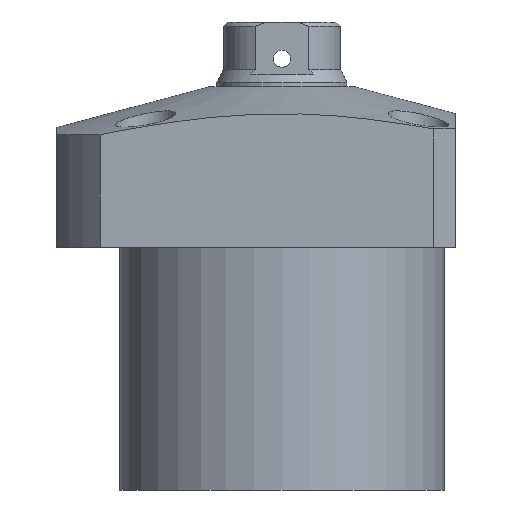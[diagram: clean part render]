
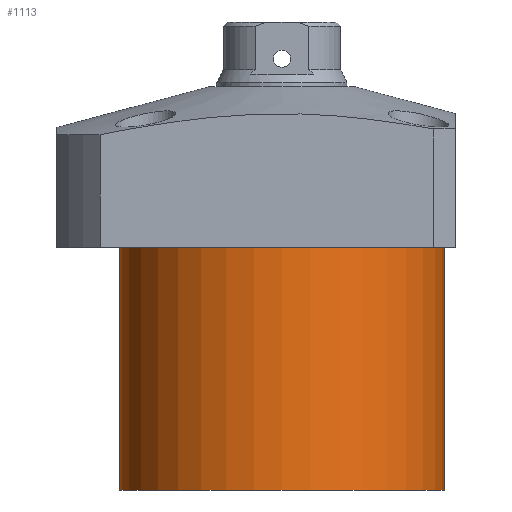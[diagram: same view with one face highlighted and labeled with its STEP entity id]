
A CAD part, front view. The second image highlights one B-rep face of the part: STEP entity #1113.
In plain terms, the highlighted cylindrical face has radius 37.5 mm (diameter 75 mm), a partial arc.
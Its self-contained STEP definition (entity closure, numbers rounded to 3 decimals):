
#221 = CIRCLE ( 'NONE', #868, 37.5 ) ;
#335 = DIRECTION ( 'NONE',  ( 0., 0., -1. ) ) ;
#401 = VERTEX_POINT ( 'NONE', #1764 ) ;
#490 = AXIS2_PLACEMENT_3D ( 'NONE', #1401, #335, #2507 ) ;
#494 = VERTEX_POINT ( 'NONE', #709 ) ;
#535 = DIRECTION ( 'NONE',  ( 1., 0., 0. ) ) ;
#671 = DIRECTION ( 'NONE',  ( 0., 0., 1. ) ) ;
#709 = CARTESIAN_POINT ( 'NONE',  ( 37.5, 0., -18.5 ) ) ;
#743 = DIRECTION ( 'NONE',  ( 0., 0., -1. ) ) ;
#831 = CARTESIAN_POINT ( 'NONE',  ( 37.5, 0., -74.5 ) ) ;
#866 = CARTESIAN_POINT ( 'NONE',  ( 37.5, 0., -74.5 ) ) ;
#868 = AXIS2_PLACEMENT_3D ( 'NONE', #1370, #743, #535 ) ;
#903 = CARTESIAN_POINT ( 'NONE',  ( -37.5, 0., -74.5 ) ) ;
#1007 = DIRECTION ( 'NONE',  ( 1., 0., 0. ) ) ;
#1029 = EDGE_CURVE ( 'NONE', #2531, #1813, #1302, .T. ) ;
#1035 = DIRECTION ( 'NONE',  ( 0., 0., 1. ) ) ;
#1113 = ADVANCED_FACE ( 'NONE', ( #2775 ), #2161, .T. ) ;
#1140 = CARTESIAN_POINT ( 'NONE',  ( -37.5, 0., -74.5 ) ) ;
#1295 = LINE ( 'NONE', #831, #2003 ) ;
#1302 = CIRCLE ( 'NONE', #490, 37.5 ) ;
#1366 = LINE ( 'NONE', #1140, #2734 ) ;
#1370 = CARTESIAN_POINT ( 'NONE',  ( 0., 0., -18.5 ) ) ;
#1387 = EDGE_LOOP ( 'NONE', ( #2443, #1751, #2132, #2579 ) ) ;
#1401 = CARTESIAN_POINT ( 'NONE',  ( 0., 0., -74.5 ) ) ;
#1751 = ORIENTED_EDGE ( 'NONE', *, *, #1029, .F. ) ;
#1763 = EDGE_CURVE ( 'NONE', #2531, #494, #1295, .T. ) ;
#1764 = CARTESIAN_POINT ( 'NONE',  ( -37.5, 0., -18.5 ) ) ;
#1813 = VERTEX_POINT ( 'NONE', #903 ) ;
#1820 = AXIS2_PLACEMENT_3D ( 'NONE', #2351, #2533, #1007 ) ;
#2003 = VECTOR ( 'NONE', #1035, 1000. ) ;
#2132 = ORIENTED_EDGE ( 'NONE', *, *, #1763, .T. ) ;
#2161 = CYLINDRICAL_SURFACE ( 'NONE', #1820, 37.5 ) ;
#2319 = EDGE_CURVE ( 'NONE', #1813, #401, #1366, .T. ) ;
#2351 = CARTESIAN_POINT ( 'NONE',  ( 0., 0., -74.5 ) ) ;
#2398 = EDGE_CURVE ( 'NONE', #494, #401, #221, .T. ) ;
#2443 = ORIENTED_EDGE ( 'NONE', *, *, #2319, .F. ) ;
#2507 = DIRECTION ( 'NONE',  ( -1., 0., 0. ) ) ;
#2531 = VERTEX_POINT ( 'NONE', #866 ) ;
#2533 = DIRECTION ( 'NONE',  ( 0., 0., 1. ) ) ;
#2579 = ORIENTED_EDGE ( 'NONE', *, *, #2398, .T. ) ;
#2734 = VECTOR ( 'NONE', #671, 1000. ) ;
#2775 = FACE_OUTER_BOUND ( 'NONE', #1387, .T. ) ;
